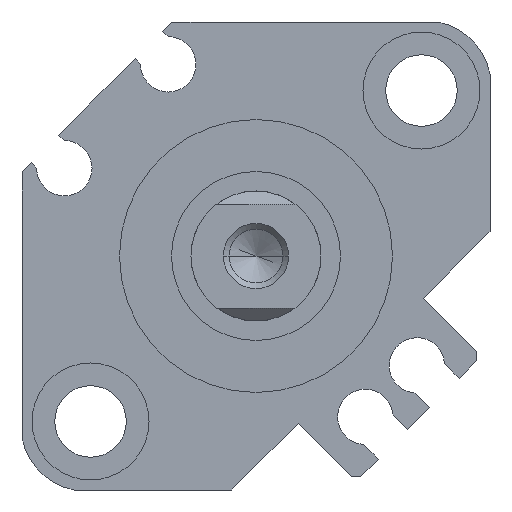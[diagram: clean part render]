
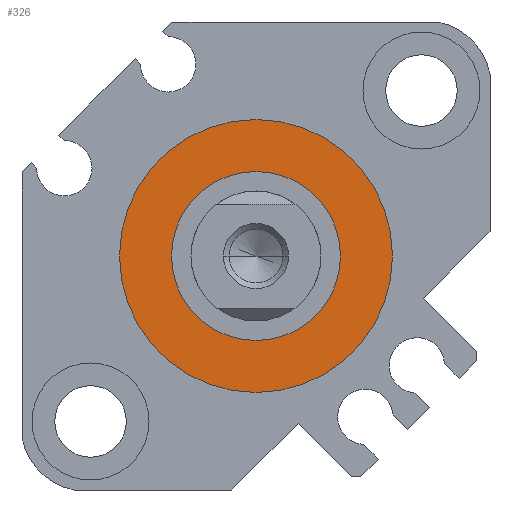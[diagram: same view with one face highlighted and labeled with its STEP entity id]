
A CAD part, left-side view. The second image highlights one B-rep face of the part: STEP entity #326.
In plain terms, the highlighted planar face has unit normal (-1, 0, 0).
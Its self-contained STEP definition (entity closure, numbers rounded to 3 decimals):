
#68 = CIRCLE ( 'NONE', #3388, 10.5 ) ;
#237 = CIRCLE ( 'NONE', #2613, 6.5 ) ;
#261 = CARTESIAN_POINT ( 'NONE',  ( 1.6, 0., -10.5 ) ) ;
#326 = ADVANCED_FACE ( 'NONE', ( #1657, #3155 ), #781, .F. ) ;
#328 = CARTESIAN_POINT ( 'NONE',  ( 1.6, 0., 0. ) ) ;
#374 = AXIS2_PLACEMENT_3D ( 'NONE', #2184, #872, #800 ) ;
#512 = CARTESIAN_POINT ( 'NONE',  ( 1.6, 0., -6.5 ) ) ;
#517 = CARTESIAN_POINT ( 'NONE',  ( 1.6, 0., 6.5 ) ) ;
#560 = CARTESIAN_POINT ( 'NONE',  ( 1.6, 0., 0. ) ) ;
#572 = EDGE_CURVE ( 'NONE', #1215, #2129, #237, .T. ) ;
#588 = DIRECTION ( 'NONE',  ( 1., 0., 0. ) ) ;
#658 = EDGE_LOOP ( 'NONE', ( #3413, #2221 ) ) ;
#781 = PLANE ( 'NONE',  #374 ) ;
#800 = DIRECTION ( 'NONE',  ( 0., 1., 0. ) ) ;
#872 = DIRECTION ( 'NONE',  ( 1., 0., 0. ) ) ;
#1147 = DIRECTION ( 'NONE',  ( 0., 0., -1. ) ) ;
#1192 = CARTESIAN_POINT ( 'NONE',  ( 1.6, 0., 10.5 ) ) ;
#1193 = CARTESIAN_POINT ( 'NONE',  ( 1.6, 0., 0. ) ) ;
#1215 = VERTEX_POINT ( 'NONE', #512 ) ;
#1365 = AXIS2_PLACEMENT_3D ( 'NONE', #1193, #588, #1147 ) ;
#1373 = DIRECTION ( 'NONE',  ( 1., 0., 0. ) ) ;
#1427 = EDGE_CURVE ( 'NONE', #3190, #3365, #68, .T. ) ;
#1515 = EDGE_LOOP ( 'NONE', ( #2133, #3348 ) ) ;
#1587 = DIRECTION ( 'NONE',  ( 1., 0., 0. ) ) ;
#1657 = FACE_OUTER_BOUND ( 'NONE', #658, .T. ) ;
#1865 = CARTESIAN_POINT ( 'NONE',  ( 1.6, 0., 0. ) ) ;
#2129 = VERTEX_POINT ( 'NONE', #517 ) ;
#2133 = ORIENTED_EDGE ( 'NONE', *, *, #2984, .T. ) ;
#2184 = CARTESIAN_POINT ( 'NONE',  ( 1.6, 0., 0. ) ) ;
#2221 = ORIENTED_EDGE ( 'NONE', *, *, #2747, .F. ) ;
#2232 = AXIS2_PLACEMENT_3D ( 'NONE', #1865, #2669, #2723 ) ;
#2613 = AXIS2_PLACEMENT_3D ( 'NONE', #560, #1587, #2880 ) ;
#2619 = CIRCLE ( 'NONE', #2232, 6.5 ) ;
#2669 = DIRECTION ( 'NONE',  ( 1., 0., 0. ) ) ;
#2705 = CIRCLE ( 'NONE', #1365, 10.5 ) ;
#2723 = DIRECTION ( 'NONE',  ( 0., 0., -1. ) ) ;
#2747 = EDGE_CURVE ( 'NONE', #3365, #3190, #2705, .T. ) ;
#2880 = DIRECTION ( 'NONE',  ( 0., 0., -1. ) ) ;
#2984 = EDGE_CURVE ( 'NONE', #2129, #1215, #2619, .T. ) ;
#3155 = FACE_BOUND ( 'NONE', #1515, .T. ) ;
#3190 = VERTEX_POINT ( 'NONE', #1192 ) ;
#3231 = DIRECTION ( 'NONE',  ( 0., 0., -1. ) ) ;
#3348 = ORIENTED_EDGE ( 'NONE', *, *, #572, .T. ) ;
#3365 = VERTEX_POINT ( 'NONE', #261 ) ;
#3388 = AXIS2_PLACEMENT_3D ( 'NONE', #328, #1373, #3231 ) ;
#3413 = ORIENTED_EDGE ( 'NONE', *, *, #1427, .F. ) ;
